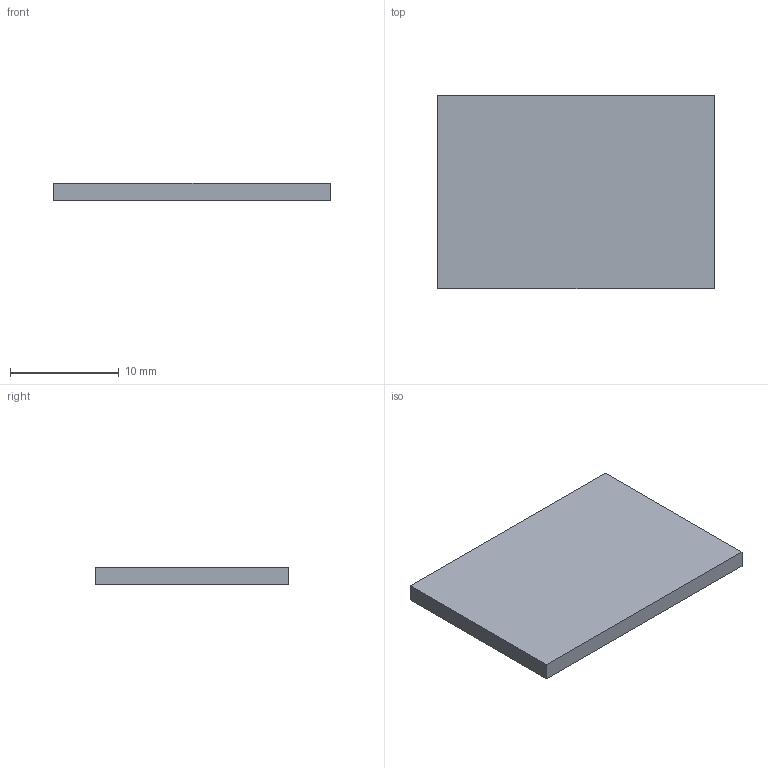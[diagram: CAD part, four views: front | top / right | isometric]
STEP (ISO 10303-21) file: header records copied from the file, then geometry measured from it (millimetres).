
FILE_DESCRIPTION(('Open CASCADE Model'),'2;1');
FILE_NAME('Open CASCADE Shape Model','2026-09-29T12:47:59',('Author'),( 'Open CASCADE'),'Open CASCADE STEP processor 7.9','Open CASCADE 7.9' ,'Unknown');
FILE_SCHEMA(('AUTOMOTIVE_DESIGN { 1 0 10303 214 1 1 1 1 }'));
Length unit declared in the file: millimetre
Products named in the file (1): Open CASCADE STEP translator 7.9 4
Bounding box: 25.4 x 17.8 x 1.6 mm (x, y, z)
Volume: 723.4 mm3; surface area: 1042.5 mm2
Topology: 1 solids, 1 shells, 6 faces, 12 edges, 8 vertices
Faces by surface type: plane 6
Entity records: 322 total; most frequent: CARTESIAN_POINT 51, DIRECTION 50, LINE 36, VECTOR 36, ORIENTED_EDGE 24, PCURVE 24, DEFINITIONAL_REPRESENTATION 24, EDGE_CURVE 12
